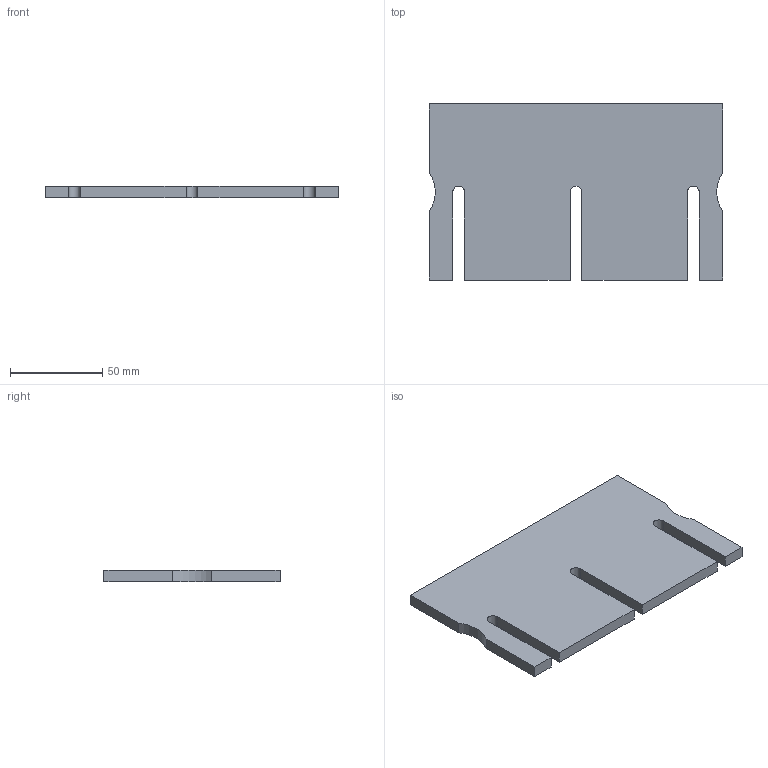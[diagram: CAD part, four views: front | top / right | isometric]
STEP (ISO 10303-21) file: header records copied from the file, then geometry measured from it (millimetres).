
FILE_DESCRIPTION((''),'2;1');
FILE_NAME('M:\jdazai\jdazai_home\private\Inventor Diagrams\maze parts\Waterjet Maze\micemaze_2-piece_holes_xx.stp','2014-09-25T09:10:33',('jdazai'),(''),'Autodesk Inventor 2013','Autodesk Inventor 2013','');
FILE_SCHEMA(('AUTOMOTIVE_DESIGN { 1 0 10303 214 1 1 1 1 }'));
Length unit declared in the file: millimetre
Products named in the file (1): Part9
Bounding box: 158.75 x 95.25 x 6.35 mm (x, y, z)
Volume: 89378.9 mm3; surface area: 33276.1 mm2
Topology: 1 solids, 1 shells, 22 faces, 60 edges, 40 vertices
Faces by surface type: plane 17, cylinder 5
Entity records: 720 total; most frequent: CARTESIAN_POINT 123, ORIENTED_EDGE 120, DIRECTION 116, EDGE_CURVE 60, VECTOR 50, LINE 50, VERTEX_POINT 40, AXIS2_PLACEMENT_3D 33
